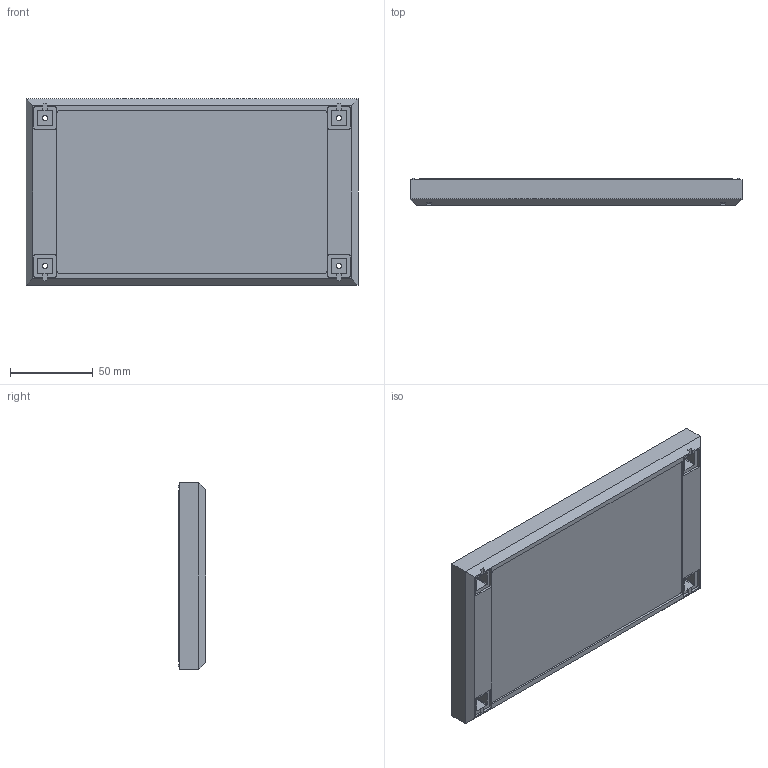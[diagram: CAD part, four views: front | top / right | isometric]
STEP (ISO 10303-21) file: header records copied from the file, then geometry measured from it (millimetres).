
FILE_DESCRIPTION (( 'STEP AP214' ), '1' );
FILE_NAME ('Tapa PP63C.STEP', '2017-01-23T03:23:23', ( 'aaa' ), ( '' ), 'SwSTEP 2.0', 'SolidWorks 2013', '' );
FILE_SCHEMA (( 'AUTOMOTIVE_DESIGN' ));
Length unit declared in the file: millimetre
Products named in the file (1): Tapa PP63C
Bounding box: 200 x 16.3 x 112.2 mm (x, y, z)
Volume: 76070.2 mm3; surface area: 66218.9 mm2
Topology: 6 solids, 6 shells, 210 faces, 540 edges, 356 vertices
Faces by surface type: plane 130, cylinder 72, cone 8
Entity records: 6495 total; most frequent: DIRECTION 1114, CARTESIAN_POINT 1107, ORIENTED_EDGE 1080, EDGE_CURVE 540, VECTOR 388, LINE 388, AXIS2_PLACEMENT_3D 363, VERTEX_POINT 356
